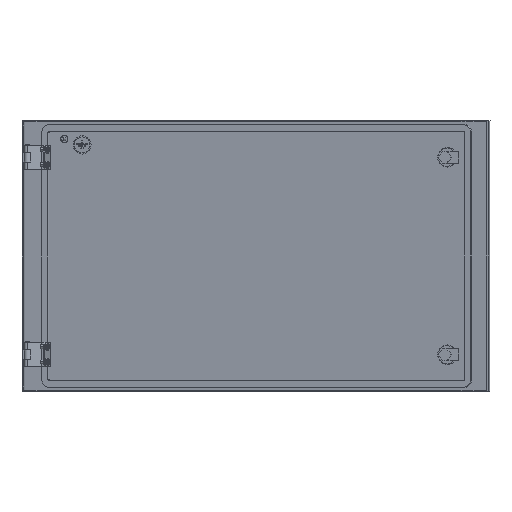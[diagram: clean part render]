
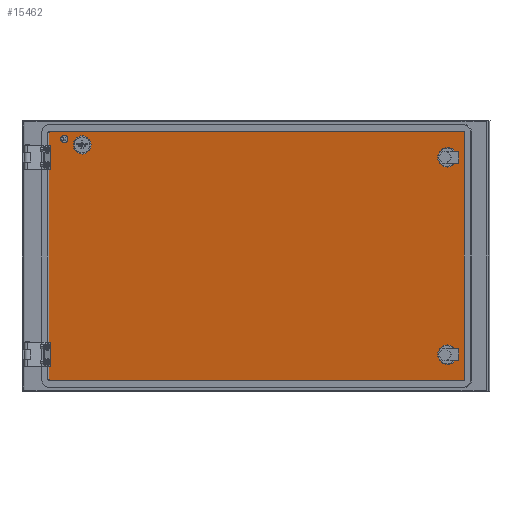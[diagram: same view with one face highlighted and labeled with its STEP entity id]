
A CAD part, left-side view. The second image highlights one B-rep face of the part: STEP entity #15462.
In plain terms, the highlighted planar face has unit normal (-0.966, 0.259, 0).
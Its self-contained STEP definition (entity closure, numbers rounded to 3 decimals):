
#76 = VERTEX_POINT ( 'NONE', #6832 ) ;
#259 = VERTEX_POINT ( 'NONE', #19766 ) ;
#567 = ORIENTED_EDGE ( 'NONE', *, *, #1940, .F. ) ;
#831 = DIRECTION ( 'NONE',  ( 0.259, 0.966, 0. ) ) ;
#834 = CARTESIAN_POINT ( 'NONE',  ( -172.397, -629.657, 187.5 ) ) ;
#936 = CARTESIAN_POINT ( 'NONE',  ( -168.26, -614.201, -137.5 ) ) ;
#1051 = VERTEX_POINT ( 'NONE', #12786 ) ;
#1082 = EDGE_CURVE ( 'NONE', #259, #2244, #16427, .T. ) ;
#1227 = VERTEX_POINT ( 'NONE', #12327 ) ;
#1353 = VERTEX_POINT ( 'NONE', #8406 ) ;
#1706 = FACE_BOUND ( 'NONE', #3504, .T. ) ;
#1940 = EDGE_CURVE ( 'NONE', #2509, #10220, #4250, .T. ) ;
#2022 = AXIS2_PLACEMENT_3D ( 'NONE', #834, #20042, #12488 ) ;
#2045 = DIRECTION ( 'NONE',  ( -0.966, 0.259, 0. ) ) ;
#2133 = CARTESIAN_POINT ( 'NONE',  ( -179.896, -657.671, 228. ) ) ;
#2185 = CIRCLE ( 'NONE', #17972, 16. ) ;
#2244 = VERTEX_POINT ( 'NONE', #13713 ) ;
#2328 = EDGE_LOOP ( 'NONE', ( #16425, #15850 ) ) ;
#2429 = VERTEX_POINT ( 'NONE', #7812 ) ;
#2498 = CARTESIAN_POINT ( 'NONE',  ( -179.378, -655.739, 230. ) ) ;
#2509 = VERTEX_POINT ( 'NONE', #14225 ) ;
#2731 = CARTESIAN_POINT ( 'NONE',  ( -11.304, -27.845, 208. ) ) ;
#2902 = CARTESIAN_POINT ( 'NONE',  ( 2.918, 25.285, 230. ) ) ;
#3071 = EDGE_CURVE ( 'NONE', #1051, #4570, #2185, .T. ) ;
#3214 = AXIS2_PLACEMENT_3D ( 'NONE', #2731, #15557, #7657 ) ;
#3365 = VECTOR ( 'NONE', #7744, 1000. ) ;
#3393 = AXIS2_PLACEMENT_3D ( 'NONE', #6670, #9526, #17520 ) ;
#3420 = DIRECTION ( 'NONE',  ( 0.259, 0.966, 0. ) ) ;
#3473 = FACE_BOUND ( 'NONE', #2328, .T. ) ;
#3504 = EDGE_LOOP ( 'NONE', ( #16119, #6626 ) ) ;
#3517 = DIRECTION ( 'NONE',  ( -0.966, 0.259, 0. ) ) ;
#3655 = VERTEX_POINT ( 'NONE', #4647 ) ;
#3663 = CIRCLE ( 'NONE', #2022, 16. ) ;
#3692 = AXIS2_PLACEMENT_3D ( 'NONE', #10620, #18729, #7482 ) ;
#3707 = DIRECTION ( 'NONE',  ( 0.259, 0.966, 0. ) ) ;
#3957 = EDGE_CURVE ( 'NONE', #1227, #3655, #13965, .T. ) ;
#3978 = AXIS2_PLACEMENT_3D ( 'NONE', #10032, #3517, #3420 ) ;
#4032 = CIRCLE ( 'NONE', #3692, 2. ) ;
#4250 = LINE ( 'NONE', #10777, #15429 ) ;
#4266 = VERTEX_POINT ( 'NONE', #936 ) ;
#4553 = DIRECTION ( 'NONE',  ( 0., 0., -1. ) ) ;
#4570 = VERTEX_POINT ( 'NONE', #7293 ) ;
#4647 = CARTESIAN_POINT ( 'NONE',  ( -7.425, -13.355, 208. ) ) ;
#5005 = CIRCLE ( 'NONE', #3978, 2.65 ) ;
#5076 = VECTOR ( 'NONE', #4553, 1000. ) ;
#5101 = ORIENTED_EDGE ( 'NONE', *, *, #1082, .F. ) ;
#5279 = AXIS2_PLACEMENT_3D ( 'NONE', #20596, #10041, #11246 ) ;
#5358 = AXIS2_PLACEMENT_3D ( 'NONE', #11778, #12088, #18287 ) ;
#5574 = EDGE_CURVE ( 'NONE', #1353, #76, #5946, .T. ) ;
#5725 = CARTESIAN_POINT ( 'NONE',  ( -172.397, -629.657, -137.5 ) ) ;
#5946 = CIRCLE ( 'NONE', #5279, 2. ) ;
#5979 = ORIENTED_EDGE ( 'NONE', *, *, #20619, .T. ) ;
#6056 = CARTESIAN_POINT ( 'NONE',  ( 2.918, 25.285, -180. ) ) ;
#6626 = ORIENTED_EDGE ( 'NONE', *, *, #3957, .F. ) ;
#6670 = CARTESIAN_POINT ( 'NONE',  ( -179.378, -655.739, 228. ) ) ;
#6817 = EDGE_CURVE ( 'NONE', #2244, #259, #5005, .T. ) ;
#6832 = CARTESIAN_POINT ( 'NONE',  ( -179.896, -657.671, -178. ) ) ;
#7293 = CARTESIAN_POINT ( 'NONE',  ( -176.534, -645.113, 187.5 ) ) ;
#7482 = DIRECTION ( 'NONE',  ( 0.259, 0.966, 0. ) ) ;
#7645 = EDGE_CURVE ( 'NONE', #4570, #1051, #3663, .T. ) ;
#7657 = DIRECTION ( 'NONE',  ( 0.259, 0.966, 0. ) ) ;
#7743 = EDGE_CURVE ( 'NONE', #2429, #11394, #10890, .T. ) ;
#7744 = DIRECTION ( 'NONE',  ( -0.259, -0.966, 0. ) ) ;
#7812 = CARTESIAN_POINT ( 'NONE',  ( 2.918, 25.285, 230. ) ) ;
#8111 = PLANE ( 'NONE',  #5358 ) ;
#8369 = EDGE_CURVE ( 'NONE', #2509, #19759, #4032, .T. ) ;
#8406 = CARTESIAN_POINT ( 'NONE',  ( -179.378, -655.739, -180. ) ) ;
#8617 = DIRECTION ( 'NONE',  ( 0.259, 0.966, 0. ) ) ;
#8838 = ORIENTED_EDGE ( 'NONE', *, *, #6817, .F. ) ;
#8859 = EDGE_CURVE ( 'NONE', #11394, #16380, #17155, .T. ) ;
#9002 = DIRECTION ( 'NONE',  ( 0.259, 0.966, 0. ) ) ;
#9208 = DIRECTION ( 'NONE',  ( -0.966, 0.259, 0. ) ) ;
#9526 = DIRECTION ( 'NONE',  ( 0.966, -0.259, 0. ) ) ;
#9613 = ORIENTED_EDGE ( 'NONE', *, *, #8369, .T. ) ;
#9885 = FACE_BOUND ( 'NONE', #13272, .T. ) ;
#10032 = CARTESIAN_POINT ( 'NONE',  ( -3.546, 1.135, 218. ) ) ;
#10041 = DIRECTION ( 'NONE',  ( -0.966, 0.259, 0. ) ) ;
#10220 = VERTEX_POINT ( 'NONE', #13444 ) ;
#10295 = CARTESIAN_POINT ( 'NONE',  ( 2.918, 25.285, 228. ) ) ;
#10561 = ORIENTED_EDGE ( 'NONE', *, *, #3071, .F. ) ;
#10620 = CARTESIAN_POINT ( 'NONE',  ( 2.918, 25.285, -178. ) ) ;
#10690 = AXIS2_PLACEMENT_3D ( 'NONE', #10295, #18505, #8617 ) ;
#10777 = CARTESIAN_POINT ( 'NONE',  ( 3.435, 27.217, 25. ) ) ;
#10780 = CARTESIAN_POINT ( 'NONE',  ( -172.397, -629.657, -137.5 ) ) ;
#10787 = AXIS2_PLACEMENT_3D ( 'NONE', #5725, #13746, #831 ) ;
#10886 = CARTESIAN_POINT ( 'NONE',  ( -176.534, -645.113, -137.5 ) ) ;
#10890 = LINE ( 'NONE', #2902, #3365 ) ;
#10991 = DIRECTION ( 'NONE',  ( -0.966, 0.259, 0. ) ) ;
#11022 = EDGE_CURVE ( 'NONE', #10220, #2429, #13395, .T. ) ;
#11246 = DIRECTION ( 'NONE',  ( 0., 0., -1. ) ) ;
#11261 = EDGE_CURVE ( 'NONE', #3655, #1227, #11381, .T. ) ;
#11363 = FACE_BOUND ( 'NONE', #12601, .T. ) ;
#11381 = CIRCLE ( 'NONE', #20758, 15. ) ;
#11394 = VERTEX_POINT ( 'NONE', #2498 ) ;
#11741 = EDGE_LOOP ( 'NONE', ( #567, #9613, #5979, #12546, #12049, #14602, #15158, #15707 ) ) ;
#11778 = CARTESIAN_POINT ( 'NONE',  ( -131.283, -476.065, 1066.5 ) ) ;
#12049 = ORIENTED_EDGE ( 'NONE', *, *, #16956, .F. ) ;
#12088 = DIRECTION ( 'NONE',  ( 0.966, -0.259, 0. ) ) ;
#12327 = CARTESIAN_POINT ( 'NONE',  ( -15.182, -42.335, 208. ) ) ;
#12488 = DIRECTION ( 'NONE',  ( 0.259, 0.966, 0. ) ) ;
#12509 = DIRECTION ( 'NONE',  ( -0.259, -0.966, 0. ) ) ;
#12546 = ORIENTED_EDGE ( 'NONE', *, *, #5574, .T. ) ;
#12557 = CIRCLE ( 'NONE', #19603, 16. ) ;
#12601 = EDGE_LOOP ( 'NONE', ( #10561, #20201 ) ) ;
#12786 = CARTESIAN_POINT ( 'NONE',  ( -168.26, -614.201, 187.5 ) ) ;
#12821 = VECTOR ( 'NONE', #12509, 1000. ) ;
#13272 = EDGE_LOOP ( 'NONE', ( #8838, #5101 ) ) ;
#13395 = CIRCLE ( 'NONE', #10690, 2. ) ;
#13444 = CARTESIAN_POINT ( 'NONE',  ( 3.435, 27.217, 228. ) ) ;
#13575 = EDGE_CURVE ( 'NONE', #4266, #14825, #12557, .T. ) ;
#13713 = CARTESIAN_POINT ( 'NONE',  ( -4.21, -1.343, 217.334 ) ) ;
#13746 = DIRECTION ( 'NONE',  ( -0.966, 0.259, 0. ) ) ;
#13965 = CIRCLE ( 'NONE', #3214, 15. ) ;
#14145 = LINE ( 'NONE', #20547, #5076 ) ;
#14152 = DIRECTION ( 'NONE',  ( 0.259, 0.966, 0. ) ) ;
#14225 = CARTESIAN_POINT ( 'NONE',  ( 3.435, 27.217, -178. ) ) ;
#14602 = ORIENTED_EDGE ( 'NONE', *, *, #8859, .F. ) ;
#14620 = FACE_OUTER_BOUND ( 'NONE', #11741, .T. ) ;
#14825 = VERTEX_POINT ( 'NONE', #10886 ) ;
#15158 = ORIENTED_EDGE ( 'NONE', *, *, #7743, .F. ) ;
#15220 = DIRECTION ( 'NONE',  ( -0.966, 0.259, 0. ) ) ;
#15429 = VECTOR ( 'NONE', #20550, 1000. ) ;
#15462 = ADVANCED_FACE ( 'NONE', ( #14620, #11363, #3473, #9885, #1706 ), #8111, .F. ) ;
#15557 = DIRECTION ( 'NONE',  ( -0.966, 0.259, 0. ) ) ;
#15707 = ORIENTED_EDGE ( 'NONE', *, *, #11022, .F. ) ;
#15850 = ORIENTED_EDGE ( 'NONE', *, *, #19017, .F. ) ;
#16119 = ORIENTED_EDGE ( 'NONE', *, *, #11261, .F. ) ;
#16380 = VERTEX_POINT ( 'NONE', #2133 ) ;
#16381 = CARTESIAN_POINT ( 'NONE',  ( -11.304, -27.845, 208. ) ) ;
#16425 = ORIENTED_EDGE ( 'NONE', *, *, #13575, .F. ) ;
#16427 = CIRCLE ( 'NONE', #18788, 2.65 ) ;
#16497 = CIRCLE ( 'NONE', #10787, 16. ) ;
#16688 = DIRECTION ( 'NONE',  ( 0.259, 0.966, 0. ) ) ;
#16956 = EDGE_CURVE ( 'NONE', #16380, #76, #14145, .T. ) ;
#17106 = CARTESIAN_POINT ( 'NONE',  ( -172.397, -629.657, 187.5 ) ) ;
#17155 = CIRCLE ( 'NONE', #3393, 2. ) ;
#17520 = DIRECTION ( 'NONE',  ( 0., 0., 1. ) ) ;
#17972 = AXIS2_PLACEMENT_3D ( 'NONE', #17106, #10991, #9002 ) ;
#18287 = DIRECTION ( 'NONE',  ( 0., 0., -1. ) ) ;
#18505 = DIRECTION ( 'NONE',  ( 0.966, -0.259, 0. ) ) ;
#18729 = DIRECTION ( 'NONE',  ( -0.966, 0.259, 0. ) ) ;
#18788 = AXIS2_PLACEMENT_3D ( 'NONE', #19999, #2045, #3707 ) ;
#19017 = EDGE_CURVE ( 'NONE', #14825, #4266, #16497, .T. ) ;
#19368 = CARTESIAN_POINT ( 'NONE',  ( 2.918, 25.285, -180. ) ) ;
#19603 = AXIS2_PLACEMENT_3D ( 'NONE', #10780, #9208, #14152 ) ;
#19759 = VERTEX_POINT ( 'NONE', #19368 ) ;
#19766 = CARTESIAN_POINT ( 'NONE',  ( -2.883, 3.612, 218.666 ) ) ;
#19999 = CARTESIAN_POINT ( 'NONE',  ( -3.546, 1.135, 218. ) ) ;
#20042 = DIRECTION ( 'NONE',  ( -0.966, 0.259, 0. ) ) ;
#20201 = ORIENTED_EDGE ( 'NONE', *, *, #7645, .F. ) ;
#20473 = LINE ( 'NONE', #6056, #12821 ) ;
#20547 = CARTESIAN_POINT ( 'NONE',  ( -179.896, -657.671, 228. ) ) ;
#20550 = DIRECTION ( 'NONE',  ( 0., 0., 1. ) ) ;
#20596 = CARTESIAN_POINT ( 'NONE',  ( -179.378, -655.739, -178. ) ) ;
#20619 = EDGE_CURVE ( 'NONE', #19759, #1353, #20473, .T. ) ;
#20758 = AXIS2_PLACEMENT_3D ( 'NONE', #16381, #15220, #16688 ) ;
